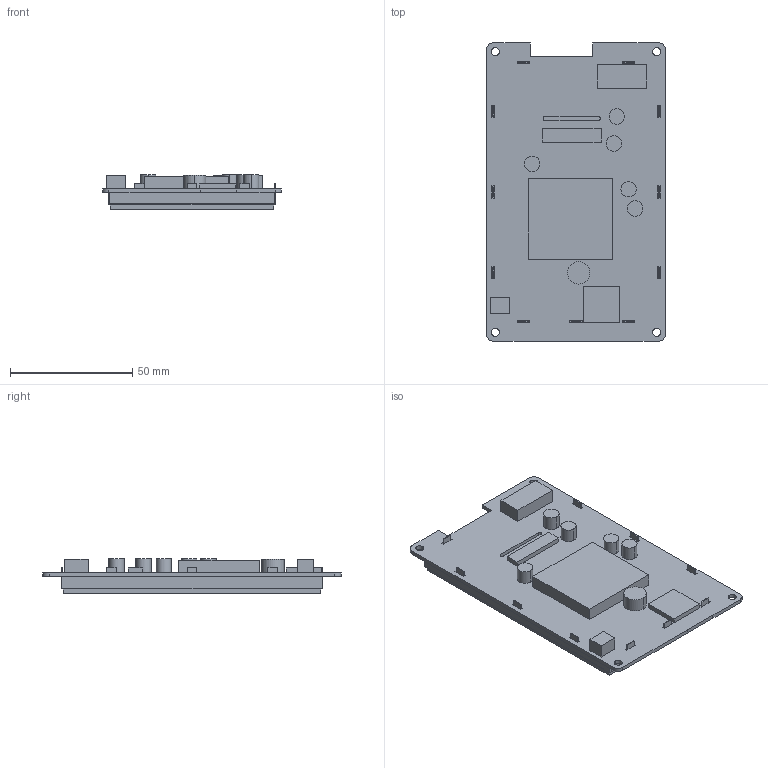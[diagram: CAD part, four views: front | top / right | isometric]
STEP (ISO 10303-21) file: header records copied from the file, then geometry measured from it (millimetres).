
FILE_DESCRIPTION((''),'2;1');
FILE_NAME('DMG80480K043_03WTC','2022-02-17T',('Administrator'),(''),'PRO/ENGINEER BY PARAMETRIC TECHNOLOGY CORPORATION, 2011310','PRO/ENGINEER BY PARAMETRIC TECHNOLOGY CORPORATION, 2011310','');
FILE_SCHEMA(('CONFIG_CONTROL_DESIGN','SHAPE_APPEARANCE_LAYERS_GROUPS'));
Length unit declared in the file: millimetre
Products named in the file (1): DMG80480K043_03WTC
Bounding box: 73.15 x 121.92 x 14.2 mm (x, y, z)
Volume: 57079.7 mm3; surface area: 51297.6 mm2
Topology: 1 solids, 2 shells, 207 faces, 610 edges, 392 vertices
Faces by surface type: plane 181, cylinder 26
Entity records: 8213 total; most frequent: ORIENTED_EDGE 1220, CARTESIAN_POINT 1209, DIRECTION 1076, EDGE_CURVE 610, VECTOR 558, LINE 558, VERTEX_POINT 392, AXIS2_PLACEMENT_3D 259
